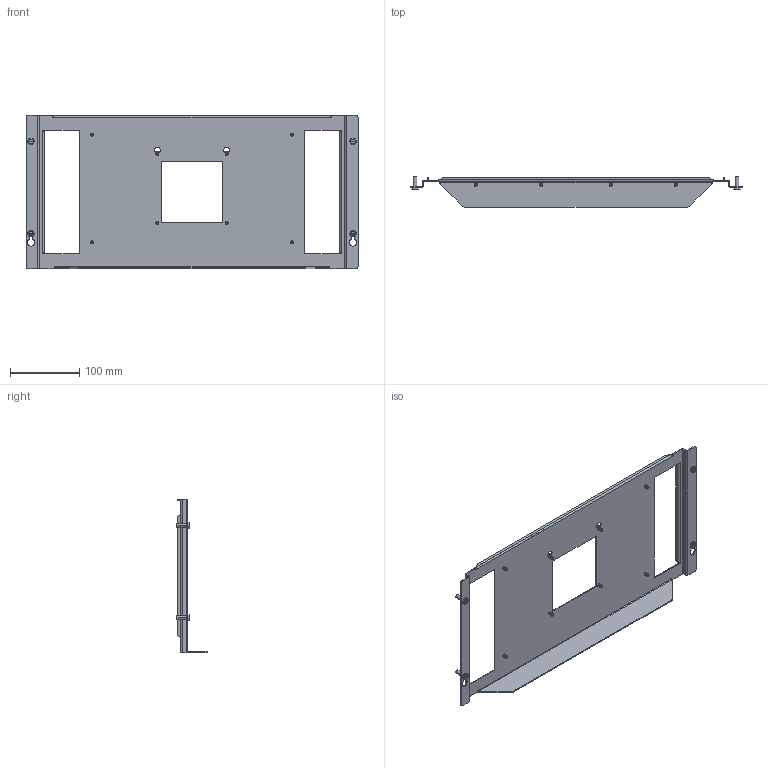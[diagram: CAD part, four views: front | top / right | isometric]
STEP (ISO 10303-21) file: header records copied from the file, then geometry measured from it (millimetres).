
FILE_DESCRIPTION((''),'2;1');
FILE_NAME('0000974845','2022-07-08T09:27:33',('nclayton'),(''),'CREO PARAMETRIC BY PTC INC, 2019080','CREO PARAMETRIC BY PTC INC, 2019080','');
FILE_SCHEMA(('CONFIG_CONTROL_DESIGN','SHAPE_APPEARANCE_LAYERS_GROUPS'));
Products named in the file (1): 0000974845
Bounding box: 479.45 x 43.43 x 220.98 mm (x, y, z)
Volume: 157426.7 mm3; surface area: 206014.7 mm2
Topology: 1 solids, 9 shells, 866 faces, 2224 edges, 1376 vertices
Faces by surface type: plane 282, cylinder 254, cone 184, bspline 74, torus 56, sphere 16
Entity records: 49628 total; most frequent: CARTESIAN_POINT 24787, ORIENTED_EDGE 4408, DIRECTION 3346, EDGE_CURVE 2216, PRESENTATION_STYLE_ASSIGNMENT 1658, STYLED_ITEM 1658, CURVE_STYLE 1544, VERTEX_POINT 1376
